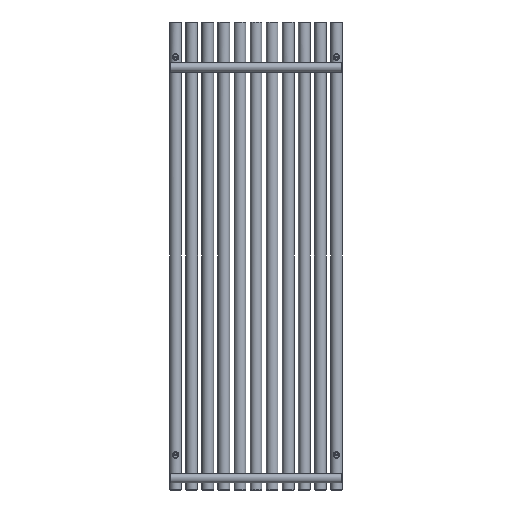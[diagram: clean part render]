
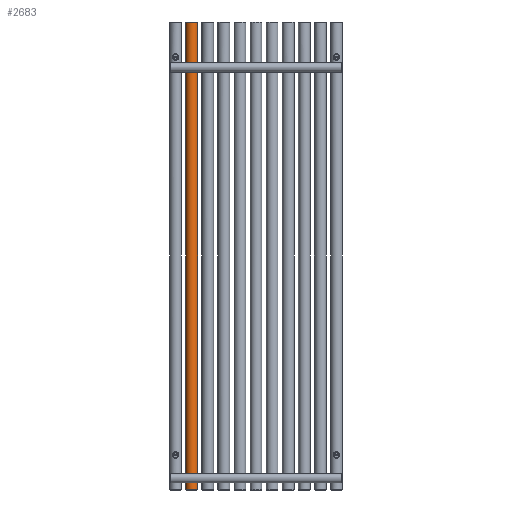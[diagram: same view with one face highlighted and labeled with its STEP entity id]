
A CAD part, front view. The second image highlights one B-rep face of the part: STEP entity #2683.
In plain terms, the highlighted cylindrical face has radius 20 mm (diameter 40 mm), a full revolution.
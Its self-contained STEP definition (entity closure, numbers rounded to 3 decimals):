
#197=FACE_BOUND('',#637,.T.);
#198=FACE_BOUND('',#638,.T.);
#246=LINE('',#4872,#326);
#326=VECTOR('',#3320,20.);
#406=CYLINDRICAL_SURFACE('',#2912,20.);
#445=FACE_OUTER_BOUND('',#636,.T.);
#636=EDGE_LOOP('',(#1873,#1874,#1875,#1876,#1877));
#637=EDGE_LOOP('',(#1878));
#638=EDGE_LOOP('',(#1879));
#870=B_SPLINE_CURVE_WITH_KNOTS('',3,(#4847,#4848,#4849,#4850,#4851,#4852,
#4853,#4854,#4855,#4856,#4857,#4858,#4859,#4860,#4861,#4862,#4863,#4864,
#4865,#4866),.UNSPECIFIED.,.T.,.F.,(4,1,1,1,1,1,1,1,1,1,1,1,1,1,1,1,1,4),
(-5.132,-4.765,-4.399,-3.91,
-3.788,-3.666,-3.421,-3.177,
-2.933,-2.444,-2.199,-1.955,
-1.711,-1.466,-1.1,-0.733,
-0.367,0.),.UNSPECIFIED.);
#871=B_SPLINE_CURVE_WITH_KNOTS('',3,(#4876,#4877,#4878,#4879,#4880,#4881,
#4882,#4883,#4884,#4885,#4886,#4887,#4888,#4889,#4890,#4891,#4892,#4893,
#4894,#4895,#4896,#4897,#4898,#4899,#4900,#4901,#4902,#4903,#4904,#4905,
#4906,#4907,#4908,#4909,#4910,#4911,#4912,#4913,#4914,#4915,#4916,#4917,
#4918,#4919,#4920,#4921,#4922,#4923,#4924,#4925,#4926,#4927,#4928,#4929,
#4930,#4931,#4932,#4933,#4934,#4935,#4936,#4937,#4938,#4939,#4940,#4941,
#4942,#4943,#4944,#4945),.UNSPECIFIED.,.T.,.F.,(4,3,3,3,3,3,3,3,3,3,3,3,
3,3,3,3,3,3,3,3,3,3,3,4),(-5.132,-4.765,-4.582,
-4.399,-4.338,-4.277,-4.154,
-3.91,-3.788,-3.666,-3.421,
-3.177,-2.933,-2.444,-2.199,
-2.077,-1.955,-1.711,-1.466,
-1.283,-1.1,-0.733,-0.367,
0.),.UNSPECIFIED.);
#943=CIRCLE('',#2913,20.);
#944=CIRCLE('',#2914,20.);
#945=CIRCLE('',#2915,20.);
#1177=VERTEX_POINT('',#4845);
#1178=VERTEX_POINT('',#4868);
#1179=VERTEX_POINT('',#4869);
#1180=VERTEX_POINT('',#4871);
#1181=VERTEX_POINT('',#4875);
#1457=EDGE_CURVE('',#1177,#1177,#870,.T.);
#1458=EDGE_CURVE('',#1178,#1179,#943,.T.);
#1459=EDGE_CURVE('',#1178,#1180,#246,.T.);
#1460=EDGE_CURVE('',#1180,#1180,#944,.T.);
#1461=EDGE_CURVE('',#1179,#1178,#945,.T.);
#1462=EDGE_CURVE('',#1181,#1181,#871,.T.);
#1873=ORIENTED_EDGE('',*,*,#1458,.F.);
#1874=ORIENTED_EDGE('',*,*,#1459,.T.);
#1875=ORIENTED_EDGE('',*,*,#1460,.F.);
#1876=ORIENTED_EDGE('',*,*,#1459,.F.);
#1877=ORIENTED_EDGE('',*,*,#1461,.F.);
#1878=ORIENTED_EDGE('',*,*,#1462,.F.);
#1879=ORIENTED_EDGE('',*,*,#1457,.F.);
#2683=ADVANCED_FACE('',(#445,#197,#198),#406,.T.);
#2912=AXIS2_PLACEMENT_3D('',#4867,#3316,#3317);
#2913=AXIS2_PLACEMENT_3D('',#4870,#3318,#3319);
#2914=AXIS2_PLACEMENT_3D('',#4873,#3321,#3322);
#2915=AXIS2_PLACEMENT_3D('',#4874,#3323,#3324);
#3316=DIRECTION('center_axis',(0.,0.,1.));
#3317=DIRECTION('ref_axis',(-1.,0.,0.));
#3318=DIRECTION('center_axis',(0.,0.,1.));
#3319=DIRECTION('ref_axis',(-1.,0.,0.));
#3320=DIRECTION('',(0.,0.,-1.));
#3321=DIRECTION('center_axis',(0.,0.,-1.));
#3322=DIRECTION('ref_axis',(-1.,0.,0.));
#3323=DIRECTION('center_axis',(0.,0.,1.));
#3324=DIRECTION('ref_axis',(-1.,0.,0.));
#4845=CARTESIAN_POINT('',(-495.,-20.,50.1));
#4847=CARTESIAN_POINT('Ctrl Pts',(-495.,-20.,50.1));
#4848=CARTESIAN_POINT('Ctrl Pts',(-496.611,-20.,50.1));
#4849=CARTESIAN_POINT('Ctrl Pts',(-499.831,-19.609,49.581));
#4850=CARTESIAN_POINT('Ctrl Pts',(-504.316,-17.862,46.748));
#4851=CARTESIAN_POINT('Ctrl Pts',(-506.001,-16.692,42.521));
#4852=CARTESIAN_POINT('Ctrl Pts',(-505.992,-16.709,39.163));
#4853=CARTESIAN_POINT('Ctrl Pts',(-505.668,-16.917,36.969));
#4854=CARTESIAN_POINT('Ctrl Pts',(-504.648,-17.555,34.431));
#4855=CARTESIAN_POINT('Ctrl Pts',(-502.536,-18.589,32.082));
#4856=CARTESIAN_POINT('Ctrl Pts',(-498.836,-19.82,30.087));
#4857=CARTESIAN_POINT('Ctrl Pts',(-494.419,-20.202,29.641));
#4858=CARTESIAN_POINT('Ctrl Pts',(-490.239,-19.503,30.58));
#4859=CARTESIAN_POINT('Ctrl Pts',(-487.466,-18.591,32.084));
#4860=CARTESIAN_POINT('Ctrl Pts',(-485.351,-17.553,34.428));
#4861=CARTESIAN_POINT('Ctrl Pts',(-483.927,-16.66,37.981));
#4862=CARTESIAN_POINT('Ctrl Pts',(-483.921,-16.659,42.599));
#4863=CARTESIAN_POINT('Ctrl Pts',(-486.137,-18.052,47.027));
#4864=CARTESIAN_POINT('Ctrl Pts',(-490.165,-19.6,49.585));
#4865=CARTESIAN_POINT('Ctrl Pts',(-493.389,-20.,50.1));
#4866=CARTESIAN_POINT('Ctrl Pts',(-495.,-20.,50.1));
#4867=CARTESIAN_POINT('Origin',(-495.,0.,0.));
#4868=CARTESIAN_POINT('',(-475.,0.,1598.));
#4869=CARTESIAN_POINT('',(-515.,0.,1598.));
#4870=CARTESIAN_POINT('Origin',(-495.,0.,1598.));
#4871=CARTESIAN_POINT('',(-475.,0.,2.));
#4872=CARTESIAN_POINT('',(-475.,0.,0.));
#4873=CARTESIAN_POINT('Origin',(-495.,0.,2.));
#4874=CARTESIAN_POINT('Origin',(-495.,0.,1598.));
#4875=CARTESIAN_POINT('',(-495.,-20.,1455.1));
#4876=CARTESIAN_POINT('Ctrl Pts',(-495.,-20.,1455.1));
#4877=CARTESIAN_POINT('Ctrl Pts',(-496.611,-20.,1455.1));
#4878=CARTESIAN_POINT('Ctrl Pts',(-498.224,-19.796,1454.84));
#4879=CARTESIAN_POINT('Ctrl Pts',(-499.701,-19.44,1454.287));
#4880=CARTESIAN_POINT('Ctrl Pts',(-500.439,-19.262,1454.01));
#4881=CARTESIAN_POINT('Ctrl Pts',(-501.144,-19.045,1453.66));
#4882=CARTESIAN_POINT('Ctrl Pts',(-501.794,-18.811,1453.231));
#4883=CARTESIAN_POINT('Ctrl Pts',(-502.443,-18.576,1452.803));
#4884=CARTESIAN_POINT('Ctrl Pts',(-503.038,-18.323,1452.295));
#4885=CARTESIAN_POINT('Ctrl Pts',(-503.559,-18.076,1451.713));
#4886=CARTESIAN_POINT('Ctrl Pts',(-503.733,-17.994,1451.519));
#4887=CARTESIAN_POINT('Ctrl Pts',(-503.899,-17.912,1451.317));
#4888=CARTESIAN_POINT('Ctrl Pts',(-504.056,-17.832,1451.107));
#4889=CARTESIAN_POINT('Ctrl Pts',(-504.213,-17.753,1450.897));
#4890=CARTESIAN_POINT('Ctrl Pts',(-504.361,-17.675,1450.68));
#4891=CARTESIAN_POINT('Ctrl Pts',(-504.5,-17.6,1450.455));
#4892=CARTESIAN_POINT('Ctrl Pts',(-504.778,-17.45,1450.005));
#4893=CARTESIAN_POINT('Ctrl Pts',(-505.019,-17.311,1449.527));
#4894=CARTESIAN_POINT('Ctrl Pts',(-505.221,-17.191,1449.028));
#4895=CARTESIAN_POINT('Ctrl Pts',(-505.624,-16.951,1448.028));
#4896=CARTESIAN_POINT('Ctrl Pts',(-505.87,-16.788,1446.94));
#4897=CARTESIAN_POINT('Ctrl Pts',(-505.952,-16.734,1445.833));
#4898=CARTESIAN_POINT('Ctrl Pts',(-505.993,-16.707,1445.28));
#4899=CARTESIAN_POINT('Ctrl Pts',(-505.992,-16.708,1444.722));
#4900=CARTESIAN_POINT('Ctrl Pts',(-505.952,-16.735,1444.168));
#4901=CARTESIAN_POINT('Ctrl Pts',(-505.911,-16.761,1443.615));
#4902=CARTESIAN_POINT('Ctrl Pts',(-505.829,-16.814,1443.066));
#4903=CARTESIAN_POINT('Ctrl Pts',(-505.707,-16.892,1442.531));
#4904=CARTESIAN_POINT('Ctrl Pts',(-505.463,-17.047,1441.46));
#4905=CARTESIAN_POINT('Ctrl Pts',(-505.056,-17.301,1440.446));
#4906=CARTESIAN_POINT('Ctrl Pts',(-504.5,-17.6,1439.547));
#4907=CARTESIAN_POINT('Ctrl Pts',(-503.944,-17.899,1438.648));
#4908=CARTESIAN_POINT('Ctrl Pts',(-503.239,-18.245,1437.865));
#4909=CARTESIAN_POINT('Ctrl Pts',(-502.425,-18.571,1437.224));
#4910=CARTESIAN_POINT('Ctrl Pts',(-501.61,-18.897,1436.583));
#4911=CARTESIAN_POINT('Ctrl Pts',(-500.685,-19.205,1436.085));
#4912=CARTESIAN_POINT('Ctrl Pts',(-499.701,-19.442,1435.715));
#4913=CARTESIAN_POINT('Ctrl Pts',(-497.731,-19.916,1434.976));
#4914=CARTESIAN_POINT('Ctrl Pts',(-495.523,-20.108,1434.753));
#4915=CARTESIAN_POINT('Ctrl Pts',(-493.393,-19.938,1434.992));
#4916=CARTESIAN_POINT('Ctrl Pts',(-492.329,-19.853,1435.111));
#4917=CARTESIAN_POINT('Ctrl Pts',(-491.284,-19.677,1435.345));
#4918=CARTESIAN_POINT('Ctrl Pts',(-490.299,-19.439,1435.714));
#4919=CARTESIAN_POINT('Ctrl Pts',(-489.807,-19.319,1435.898));
#4920=CARTESIAN_POINT('Ctrl Pts',(-489.33,-19.184,1436.115));
#4921=CARTESIAN_POINT('Ctrl Pts',(-488.874,-19.038,1436.367));
#4922=CARTESIAN_POINT('Ctrl Pts',(-488.418,-18.891,1436.618));
#4923=CARTESIAN_POINT('Ctrl Pts',(-487.983,-18.733,1436.904));
#4924=CARTESIAN_POINT('Ctrl Pts',(-487.576,-18.57,1437.224));
#4925=CARTESIAN_POINT('Ctrl Pts',(-486.761,-18.244,1437.865));
#4926=CARTESIAN_POINT('Ctrl Pts',(-486.056,-17.899,1438.647));
#4927=CARTESIAN_POINT('Ctrl Pts',(-485.5,-17.599,1439.545));
#4928=CARTESIAN_POINT('Ctrl Pts',(-484.943,-17.299,1440.444));
#4929=CARTESIAN_POINT('Ctrl Pts',(-484.536,-17.046,1441.459));
#4930=CARTESIAN_POINT('Ctrl Pts',(-484.292,-16.891,1442.53));
#4931=CARTESIAN_POINT('Ctrl Pts',(-484.109,-16.775,1443.332));
#4932=CARTESIAN_POINT('Ctrl Pts',(-484.018,-16.714,1444.166));
#4933=CARTESIAN_POINT('Ctrl Pts',(-484.017,-16.714,1445.));
#4934=CARTESIAN_POINT('Ctrl Pts',(-484.017,-16.714,1445.834));
#4935=CARTESIAN_POINT('Ctrl Pts',(-484.108,-16.774,1446.668));
#4936=CARTESIAN_POINT('Ctrl Pts',(-484.292,-16.891,1447.47));
#4937=CARTESIAN_POINT('Ctrl Pts',(-484.66,-17.125,1449.075));
#4938=CARTESIAN_POINT('Ctrl Pts',(-485.399,-17.587,1450.551));
#4939=CARTESIAN_POINT('Ctrl Pts',(-486.44,-18.076,1451.715));
#4940=CARTESIAN_POINT('Ctrl Pts',(-487.481,-18.566,1452.879));
#4941=CARTESIAN_POINT('Ctrl Pts',(-488.823,-19.084,1453.732));
#4942=CARTESIAN_POINT('Ctrl Pts',(-490.3,-19.442,1454.287));
#4943=CARTESIAN_POINT('Ctrl Pts',(-491.777,-19.801,1454.842));
#4944=CARTESIAN_POINT('Ctrl Pts',(-493.389,-20.,1455.1));
#4945=CARTESIAN_POINT('Ctrl Pts',(-495.,-20.,1455.1));
